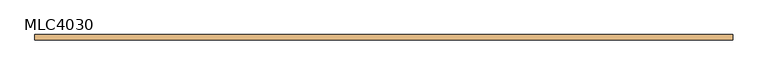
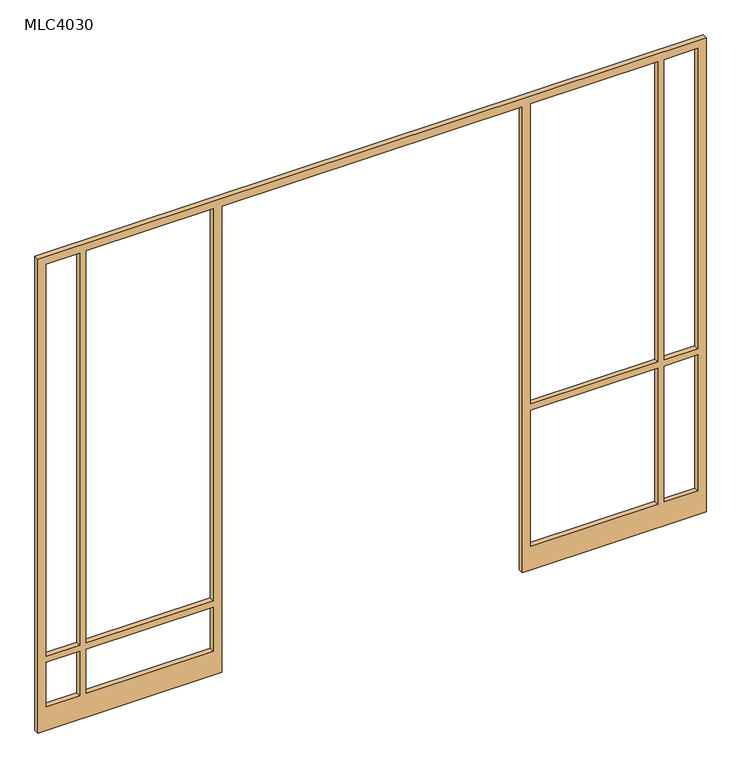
"""IFC4 building model written with IfcOpenShell, lengths in millimetres: door geometry, 双面嵌板连窗玻璃门 4 : MLC4030."""

from ifc_helpers import new_model, si_unit, frame, origin, place, context, project, spatial, polyline, outline, extrude, source, transform, mapped, element, save


def mlc4030_237699f2(model_context):
    return source(origin(), model_context, "Body", "SweptSolid", [
        extrude(outline(polyline([(3000.0, -2000.0), (0.0, -2000.0), (0.0, -900.0), (2950.0, -900.0), (2950.0, 900.0), (0.0, 900.0), (0.0, 2000.0), (3000.0, 2000.0), (3000.0, -2000.0)]), holes=[polyline([(2950.0, -1750.0), (469.6915265, -1750.0), (469.6915265, -1950.0), (2950.0, -1950.0), (2950.0, -1750.0)]), polyline([(429.6915265, -1950.0), (429.6915265, -1750.0), (150.0, -1750.0), (150.0, -1950.0), (429.6915265, -1950.0)]), polyline([(150.0, -1710.0), (429.6915265, -1710.0), (429.6915265, -950.0), (150.0, -950.0), (150.0, -1710.0)]), polyline([(469.6915265, -950.0), (469.6915265, -1710.0), (2950.0, -1710.0), (2950.0, -950.0), (469.6915265, -950.0)]), polyline([(2950.0, 1750.0), (2950.0, 1950.0), (1050.0, 1950.0), (1050.0, 1750.0), (2950.0, 1750.0)]), polyline([(1010.0, 1950.0), (150.0, 1950.0), (150.0, 1750.0), (1010.0, 1750.0), (1010.0, 1950.0)]), polyline([(150.0, 1710.0), (150.0, 950.0), (1010.0, 950.0), (1010.0, 1710.0), (150.0, 1710.0)]), polyline([(1050.0, 950.0), (2950.0, 950.0), (2950.0, 1710.0), (1050.0, 1710.0), (1050.0, 950.0)])]), frame((0.0, -15.0, 0.0), z_axis=(0.0, 1.0, 0.0), x_axis=(0.0, 0.0, 1.0)), (0.0, 0.0, 1.0), 30.0),
    ])


if __name__ == "__main__":
    model = new_model("IFC4")
    model_context = context("Model", 3, world=origin())
    ifc_project = project(units=[si_unit("LENGTHUNIT", "METRE", prefix="MILLI")], contexts=[model_context])
    site = spatial("IfcSite", under=ifc_project)
    building = spatial("IfcBuilding", under=site)
    placement = place(None, origin())
    mlc4030_shape = mlc4030_237699f2(model_context)
    element("IfcDoor", 1, ObjectType="双面嵌板连窗玻璃门 4 : MLC4030", at=placement, inside=building, context=model_context, shape_type="MappedRepresentation", body=[
        mapped(mlc4030_shape, transform((0.0, 0.0, 0.0), x_axis=(1.0, 0.0, 0.0), y_axis=(0.0, 1.0, 0.0), z_axis=(0.0, 0.0, 1.0))),
    ])
    save(model, "model.ifc")
